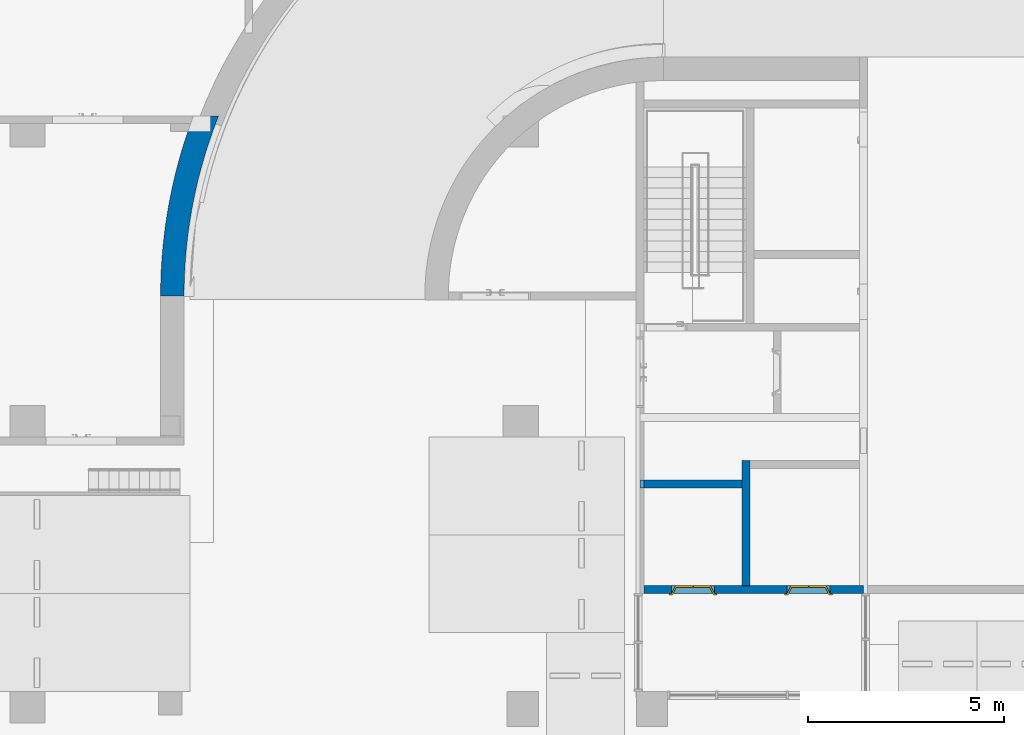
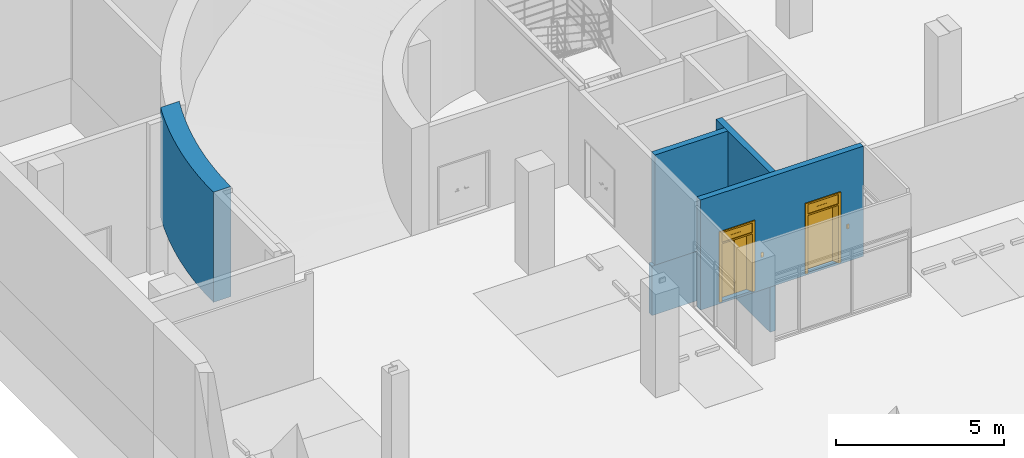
# One storey, part 9 of 30: 6 walls, 2 doors, 2 openings.
"""IFC2X3 building model written with IfcOpenShell, lengths in millimetres."""

from ifc_helpers import new_model, entity, si_unit, converted_unit, derived_unit, direction, frame, frame_2d, origin, place, context, subcontext, project, spatial, polyline, circle_curve, parameter, trimmed, segment, composite_curve, rectangle, outline, extrude, faceted_brep, source, transform, mapped, material, material_list, layer, layer_set, layer_usage, type_object, type_shapes, element, fill, save


model = new_model("IFC2X3")

# Units and contexts
model_context = context("Model", 3, precision=0.01, world=origin(), true_north=direction((6.123031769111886e-17, 1.0)))
body_context = subcontext(model_context, "Body", "Model", "MODEL_VIEW")
ifc_project = project(units=[si_unit("LENGTHUNIT", "METRE", prefix="MILLI"), si_unit("AREAUNIT", "SQUARE_METRE"), si_unit("VOLUMEUNIT", "CUBIC_METRE"), converted_unit("PLANEANGLEUNIT", "DEGREE", entity("IfcRatioMeasure", 0.017453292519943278), si_unit("PLANEANGLEUNIT", "RADIAN"), dimensions=[0, 0, 0, 0, 0, 0, 0]), si_unit("MASSUNIT", "GRAM", prefix="KILO"), derived_unit("MASSDENSITYUNIT", [(si_unit("MASSUNIT", "GRAM", prefix="KILO"), 1), (si_unit("LENGTHUNIT", "METRE"), -3)]), derived_unit("MOMENTOFINERTIAUNIT", [(si_unit("LENGTHUNIT", "METRE"), 4)]), si_unit("TIMEUNIT", "SECOND"), si_unit("FREQUENCYUNIT", "HERTZ"), si_unit("THERMODYNAMICTEMPERATUREUNIT", "DEGREE_CELSIUS"), derived_unit("THERMALTRANSMITTANCEUNIT", [(si_unit("MASSUNIT", "GRAM", prefix="KILO"), 1), (si_unit("THERMODYNAMICTEMPERATUREUNIT", "KELVIN"), -1), (si_unit("TIMEUNIT", "SECOND"), -3)]), derived_unit("VOLUMETRICFLOWRATEUNIT", [(si_unit("LENGTHUNIT", "METRE"), 3), (si_unit("TIMEUNIT", "SECOND"), -1)]), derived_unit("MASSFLOWRATEUNIT", [(si_unit("MASSUNIT", "GRAM", prefix="KILO"), 1), (si_unit("TIMEUNIT", "SECOND"), -1)]), derived_unit("ROTATIONALFREQUENCYUNIT", [(si_unit("TIMEUNIT", "SECOND"), -1)]), si_unit("ELECTRICCURRENTUNIT", "AMPERE"), si_unit("ELECTRICVOLTAGEUNIT", "VOLT"), si_unit("POWERUNIT", "WATT"), si_unit("FORCEUNIT", "NEWTON", prefix="KILO"), si_unit("ILLUMINANCEUNIT", "LUX"), si_unit("LUMINOUSFLUXUNIT", "LUMEN"), si_unit("LUMINOUSINTENSITYUNIT", "CANDELA"), derived_unit("USERDEFINED", [(si_unit("MASSUNIT", "GRAM", prefix="KILO"), -1), (si_unit("LENGTHUNIT", "METRE"), -2), (si_unit("TIMEUNIT", "SECOND"), 3), (si_unit("LUMINOUSFLUXUNIT", "LUMEN"), 1)]), derived_unit("SOUNDPOWERUNIT", [(si_unit("MASSUNIT", "GRAM", prefix="KILO"), 1), (si_unit("LENGTHUNIT", "METRE"), 2), (si_unit("TIMEUNIT", "SECOND"), -3)]), derived_unit("SOUNDPRESSUREUNIT", [(si_unit("MASSUNIT", "GRAM", prefix="KILO"), 1), (si_unit("LENGTHUNIT", "METRE"), -1), (si_unit("TIMEUNIT", "SECOND"), -2)]), derived_unit("LINEARVELOCITYUNIT", [(si_unit("LENGTHUNIT", "METRE"), 1), (si_unit("TIMEUNIT", "SECOND"), -1)]), si_unit("PRESSUREUNIT", "PASCAL"), derived_unit("USERDEFINED", [(si_unit("LENGTHUNIT", "METRE"), -2), (si_unit("MASSUNIT", "GRAM", prefix="KILO"), 1), (si_unit("TIMEUNIT", "SECOND"), -2)]), derived_unit("LINEARFORCEUNIT", [(si_unit("MASSUNIT", "GRAM", prefix="KILO"), 1), (si_unit("LENGTHUNIT", "METRE"), 1), (si_unit("TIMEUNIT", "SECOND"), -2), (si_unit("LENGTHUNIT", "METRE"), -1)]), derived_unit("PLANARFORCEUNIT", [(si_unit("MASSUNIT", "GRAM", prefix="KILO"), 1), (si_unit("LENGTHUNIT", "METRE"), 1), (si_unit("TIMEUNIT", "SECOND"), -2), (si_unit("LENGTHUNIT", "METRE"), -2)])], contexts=[model_context])

# Site, building, storey
site_placement = place(None, frame((-14167.972527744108, -657.2125860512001, 0.0)))
site = spatial("IfcSite", under=ifc_project, at=site_placement, Name="Default", CompositionType="ELEMENT")
building_placement = place(site_placement, origin())
building = spatial("IfcBuilding", under=site, at=building_placement, Name="Sample Building", CompositionType="ELEMENT")
storey_placement = place(building_placement, frame((0.0, 0.0, -10100.0)))
storey = spatial("IfcBuildingStorey", under=building, at=storey_placement, Name="지하2층", CompositionType="ELEMENT", Elevation=-10100.0)

# Walls
ifc_material_1 = material(Name="KBIMS-콘크리트")
ifc_layer_1 = layer(ifc_material_1, 200.0)
ifc_layer_set_1 = layer_set([ifc_layer_1], Name="기본 벽:WA111-철근콘크리트구조 벽 200mm_CW1")
ifc_layer_usage_1 = layer_usage(ifc_layer_set_1, "AXIS2", "NEGATIVE", 100.0)
wall_type_1 = type_object("IfcWallType", Name="기본 벽:WA111-철근콘크리트구조 벽 200mm_CW1", PredefinedType="STANDARD", material=ifc_layer_set_1)
wall_1_placement = place(storey_placement, frame((32867.97271708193, 15757.212586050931, 0.0), z_axis=(0.0, 0.0, 1.0), x_axis=(0.0, 1.0, 0.0)))
element("IfcWallStandardCase", 1, at=wall_1_placement, inside=storey, type_object=wall_type_1, material=ifc_layer_usage_1, Name="기본 벽:WA111-철근콘크리트구조 벽 200mm_CW1", ObjectType="기본 벽:WA111-철근콘크리트구조 벽 200mm_CW1", context=body_context, shape_type="SweptSolid", body=[
    extrude(rectangle(XDim=3199.9997236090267, YDim=200.0000000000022, at=frame_2d((1599.9998618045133, -2.1032064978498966e-12), x_axis=(-1.0, 0.0))), origin(), (0.0, 0.0, 1.0), 4000.0000000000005),
])
ifc_layer_usage_2 = layer_usage(ifc_layer_set_1, "AXIS2", "NEGATIVE", 100.0)
wall_2_placement = place(storey_placement, frame((32767.97271708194, 18357.212309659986, 0.0), z_axis=(0.0, 0.0, 1.0), x_axis=(-1.0, 0.0, 0.0)))
element("IfcWallStandardCase", 2, at=wall_2_placement, inside=storey, type_object=wall_type_1, material=ifc_layer_usage_2, Name="기본 벽:WA111-철근콘크리트구조 벽 200mm_CW1", ObjectType="기본 벽:WA111-철근콘크리트구조 벽 200mm_CW1", context=body_context, shape_type="SweptSolid", body=[
    extrude(rectangle(XDim=2501.8469026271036, YDim=200.0, at=frame_2d((1250.9234513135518, 9.592326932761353e-13), x_axis=(-1.0, 0.0))), origin(), (0.0, 0.0, 1.0), 4000.0000000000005),
])
ifc_layer_usage_3 = layer_usage(ifc_layer_set_1, "AXIS2", "NEGATIVE", 100.0)
wall_3_placement = place(storey_placement, frame((32867.97271708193, 15753.302947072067, -1800.0), z_axis=(0.0, 0.0, 1.0), x_axis=(0.0, 1.0, 0.0)))
element("IfcWallStandardCase", 3, at=wall_3_placement, inside=storey, type_object=wall_type_1, material=ifc_layer_usage_3, Name="기본 벽:WA111-철근콘크리트구조 벽 200mm_CW1", ObjectType="기본 벽:WA111-철근콘크리트구조 벽 200mm_CW1", context=body_context, shape_type="SweptSolid", body=[
    extrude(rectangle(XDim=3203.9093625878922, YDim=200.0000000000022, at=frame_2d((1601.9546812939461, -2.1032064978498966e-12), x_axis=(-1.0, 0.0))), origin(), (0.0, 0.0, 1.0), 1799.999999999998),
])
ifc_layer_usage_4 = layer_usage(ifc_layer_set_1, "AXIS2", "NEGATIVE", 100.0)
wall_4_placement = place(storey_placement, frame((32767.97271708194, 18357.212309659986, -1800.0), z_axis=(0.0, 0.0, 1.0), x_axis=(-1.0, 0.0, 0.0)))
element("IfcWallStandardCase", 4, at=wall_4_placement, inside=storey, type_object=wall_type_1, material=ifc_layer_usage_4, Name="기본 벽:WA111-철근콘크리트구조 벽 200mm_CW1", ObjectType="기본 벽:WA111-철근콘크리트구조 벽 200mm_CW1", context=body_context, shape_type="SweptSolid", body=[
    extrude(rectangle(XDim=2601.846902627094, YDim=200.0, at=frame_2d((1300.923451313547, 1.0871303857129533e-12), x_axis=(-1.0, 0.0))), origin(), (0.0, 0.0, 1.0), 1799.999999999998),
])

# Wall, openings, doors
ifc_layer_usage_5 = layer_usage(ifc_layer_set_1, "AXIS2", "NEGATIVE", 100.0)
wall_5_placement = place(storey_placement, frame((35867.97249113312, 15657.212586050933, 0.0), z_axis=(0.0, 0.0, 1.0), x_axis=(-1.0, 0.0, 0.0)))
wall_5 = element("IfcWallStandardCase", 5, at=wall_5_placement, inside=storey, type_object=wall_type_1, material=ifc_layer_usage_5, Name="기본 벽:WA111-철근콘크리트구조 벽 200mm_CW1", ObjectType="기본 벽:WA111-철근콘크리트구조 벽 200mm_CW1", context=body_context, shape_type="SweptSolid", body=[
    extrude(rectangle(XDim=5601.846676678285, YDim=200.0, at=frame_2d((2800.9233383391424, 5.471179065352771e-13), x_axis=(-1.0, 0.0))), origin(), (0.0, 0.0, 1.0), 4000.0000000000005),
])
opening_1_placement = place(wall_5_placement, frame((4900.92322536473, 100.0, 80.0)))
opening_1 = element("IfcOpeningElement", 6, at=opening_1_placement, cuts=wall_5, Name="EE111-엘리베이터문(문):EE111-엘리베이터문(20인승)_1100x2550:1", ObjectType="Opening", context=body_context, shape_type="SweptSolid", body=[
    extrude(rectangle(XDim=2549.999999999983, YDim=1099.9999999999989, at=frame_2d((1274.9999999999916, 550.0000000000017), x_axis=(1.0, 0.0))), frame((0.0, 0.0, 0.0), z_axis=(0.0, -1.0, 0.0), x_axis=(0.0, 0.0, 1.0)), (0.0, 0.0, 1.0), 200.0),
])
opening_2_placement = place(wall_5_placement, frame((1949.99990977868, 100.0, 80.0)))
opening_2 = element("IfcOpeningElement", 7, at=opening_2_placement, cuts=wall_5, Name="EE111-엘리베이터문(문):EE111-엘리베이터문(20인승)_1100x2550:1", ObjectType="Opening", context=body_context, shape_type="SweptSolid", body=[
    extrude(rectangle(XDim=2549.999999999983, YDim=1099.9999999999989, at=frame_2d((1274.9999999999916, 550.0000000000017), x_axis=(1.0, 0.0))), frame((0.0, 0.0, 0.0), z_axis=(0.0, -1.0, 0.0), x_axis=(0.0, 0.0, 1.0)), (0.0, 0.0, 1.0), 200.0),
])
ifc_material_2 = material(Name="<Unnamed>")
ifc_material_list = material_list([ifc_material_2, ifc_material_2, ifc_material_2, ifc_material_2])
door_style = type_object("IfcDoorStyle", Name="EE111-엘리베이터문(문):EE111-엘리베이터문(20인승)_1100x2550", ConstructionType="NOTDEFINED", OperationType="DOUBLE_DOOR_SLIDING", ParameterTakesPrecedence=False, Sizeable=False, material=ifc_material_list)
shared_shape = source(origin(), body_context, "Body", "Brep", [
    faceted_brep([(-296.2736811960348, 220.43384628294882, 1175.0), (-313.5941892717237, 220.4338462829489, 1145.0), (-330.9146973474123, 220.43384628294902, 1175.0), (-296.2736811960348, 215.04269782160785, 1175.0), (-330.9146973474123, 215.0426978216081, 1175.0), (-313.5941892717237, 215.04269782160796, 1145.0)], [[[0, 1, 2]], [[3, 4, 5]], [[1, 0, 3, 5]], [[2, 1, 5, 4]], [[0, 2, 4, 3]]]),
    faceted_brep([(-330.9146973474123, 220.43384628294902, 1225.0), (-296.2736811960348, 220.43384628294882, 1225.0), (-296.2736811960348, 215.04269782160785, 1225.0), (-330.9146973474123, 215.04269782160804, 1225.0), (-313.5941892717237, 220.4338462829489, 1255.0), (-313.5941892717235, 215.04269782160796, 1255.0)], [[[0, 1, 2, 3]], [[4, 0, 3, 5]], [[1, 4, 5, 2]], [[2, 5, 3]], [[1, 0, 4]]]),
    faceted_brep([(-351.5567877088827, 215.0426978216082, 1277.0326998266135), (-275.63159083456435, 215.04269782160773, 1277.0326998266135), (-275.63159083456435, 215.04269782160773, 1122.967300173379), (-351.5567877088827, 215.0426978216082, 1122.967300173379), (-351.55678770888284, 200.0, 1277.0326998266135), (-351.55678770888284, 200.0, 1122.967300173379), (-275.6315908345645, 200.0, 1122.967300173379), (-275.6315908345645, 200.0, 1277.0326998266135)], [[[0, 1, 2, 3]], [[4, 5, 6, 7]], [[1, 0, 4, 7]], [[2, 1, 7, 6]], [[3, 2, 6, 5]], [[0, 3, 5, 4]]]),
    faceted_brep([(-60.0, 200.0, 2550.0), (-60.0, 240.0, 2550.0), (-60.0, 240.0, 0.0), (-60.0, 200.0, 0.0), (703.014298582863, 240.0, 2550.0), (703.014298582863, 240.0, 2500.0), (27.911234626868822, 240.0, 2500.0), (27.911234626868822, 240.0, 2150.0), (703.014298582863, 240.0, 2150.0), (703.014298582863, 240.0, 2100.0), (27.911234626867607, 240.0, 2100.0), (27.911234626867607, 240.0, 0.0), (978.5926496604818, 40.0, 0.0), (1078.5926496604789, 240.0, 0.0), (1160.0, 240.0, 0.0), (1160.0, 200.0, 0.0), (1100.0, 200.0, 0.0), (1000.0, 0.0, 0.0), (555.0, 0.0, 0.0), (555.0, 40.0, 0.0), (0.0, 200.0, 2550.0), (0.0, 200.0, 0.0), (100.0, 0.0, 2550.0), (100.0, 0.0, 0.0), (1000.0, 0.0, 2550.0), (545.0, 0.0, 0.0), (545.0, 0.0, 2100.0), (555.0, 0.0, 2100.0), (545.0, 40.0, 0.0), (545.0, 40.0, 2100.0), (555.0, 40.0, 2100.0), (1100.0, 200.0, 2550.0), (1160.0, 200.0, 2550.0), (1160.0, 240.0, 2550.0), (1078.5926496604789, 240.0, 2100.0), (1078.5926496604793, 240.0, 2150.0), (1078.5926496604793, 240.0, 2500.0), (978.5926496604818, 40.0, 2100.0), (127.91123462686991, 40.0, 0.0), (127.91123462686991, 40.0, 2100.0), (1078.5926496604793, 214.08728771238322, 2150.0), (1078.5926496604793, 214.08728771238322, 2500.0), (27.911234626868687, 214.0872877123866, 2500.0), (27.911234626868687, 214.0872877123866, 2150.0), (550.0, 214.08728771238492, 2370.0), (410.8272722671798, 214.08728771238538, 2370.0), (410.8272722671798, 214.08728771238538, 2300.0), (550.0, 214.08728771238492, 2300.0), (789.172727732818, 214.08728771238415, 2300.0), (789.172727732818, 214.08728771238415, 2370.0), (550.0, 208.4787281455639, 2370.0), (410.8272722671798, 208.47872814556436, 2370.0), (410.8272722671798, 208.47872814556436, 2300.0), (789.172727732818, 208.47872814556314, 2300.0), (789.172727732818, 208.47872814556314, 2370.0), (550.0, 208.4787281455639, 2300.0)], [[[0, 1, 2, 3]], [[2, 1, 4, 5, 6, 7, 8, 9, 10, 11]], [[12, 13, 14, 15, 16, 17, 18, 19]], [[20, 0, 3, 21]], [[22, 20, 21, 23]], [[24, 22, 23, 25, 26, 27, 18, 17]], [[25, 28, 29, 26]], [[19, 18, 27, 30]], [[31, 24, 17, 16]], [[32, 31, 16, 15]], [[33, 32, 15, 14]], [[4, 33, 14, 13, 34, 9, 8, 35, 36, 5]], [[13, 12, 37, 34]], [[38, 11, 10, 39]], [[38, 39, 29, 28]], [[37, 12, 19, 30]], [[1, 0, 20, 22, 24, 31, 32, 33, 4]], [[40, 41, 36, 35]], [[41, 42, 6, 5, 36]], [[42, 43, 7, 6]], [[43, 42, 41, 40], [44, 45, 46, 47, 48, 49]], [[50, 51, 45, 44]], [[51, 52, 46, 45]], [[53, 54, 49, 48]], [[54, 50, 44, 49]], [[50, 54, 53, 55, 52, 51]], [[10, 9, 34, 37, 30, 27, 26, 29, 39]], [[43, 40, 35, 8, 7]], [[52, 55, 47, 46]], [[55, 53, 48, 47]], [[21, 3, 2, 11, 38, 28, 25, 23]]]),
])
type_shapes(door_style, [shared_shape])
door_1_placement = place(opening_1_placement, frame((-1100.0, -200.0, 0.0)))
door_1 = element("IfcDoor", 8, at=door_1_placement, inside=storey, type_object=door_style, material=ifc_material_2, Name="EE111-엘리베이터문(문):EE111-엘리베이터문(20인승)_1100x2550", ObjectType="EE111-엘리베이터문(문):EE111-엘리베이터문(20인승)_1100x2550", OverallHeight=2549.999999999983, OverallWidth=1100.0000000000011, context=body_context, shape_type="MappedRepresentation", body=[
    mapped(shared_shape, transform((0.0, 0.0, 0.0), scale=1.0)),
])
fill(opening_1, door_1)
door_2_placement = place(opening_2_placement, frame((-1100.0, -200.0, 0.0)))
door_2 = element("IfcDoor", 9, at=door_2_placement, inside=storey, type_object=door_style, material=ifc_material_2, Name="EE111-엘리베이터문(문):EE111-엘리베이터문(20인승)_1100x2550", ObjectType="EE111-엘리베이터문(문):EE111-엘리베이터문(20인승)_1100x2550", OverallHeight=2549.999999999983, OverallWidth=1100.0000000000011, context=body_context, shape_type="MappedRepresentation", body=[
    mapped(shared_shape, transform((0.0, 0.0, 0.0), scale=1.0)),
])
fill(opening_2, door_2)

# Wall
ifc_layer_2 = layer(ifc_material_1, 600.0)
ifc_layer_set_2 = layer_set([ifc_layer_2], Name="기본 벽:WA111-철근콘크리트구조 벽 300mm_RaW1")
ifc_layer_usage_6 = layer_usage(ifc_layer_set_2, "AXIS2", "NEGATIVE", 300.0)
wall_type_2 = type_object("IfcWallType", Name="기본 벽:WA111-철근콘크리트구조 벽 300mm_RaW1", PredefinedType="STANDARD", material=ifc_layer_set_2)
wall_6_placement = place(storey_placement, frame((19124.16602174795, 27868.50263057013, 0.0)))
element("IfcWallStandardCase", 10, at=wall_6_placement, inside=storey, type_object=wall_type_2, material=ifc_layer_usage_6, Name="기본 벽:WA111-철근콘크리트구조 벽 300mm_RaW1", ObjectType="기본 벽:WA111-철근콘크리트구조 벽 300mm_RaW1", context=body_context, shape_type="SweptSolid", body=[
    extrude(outline(composite_curve([segment(trimmed(circle_curve(frame_2d((11793.801062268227, -4711.290322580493), x_axis=(1.0, 0.0)), 12399.999999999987), [parameter(159.23637249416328)], [parameter(180.00000000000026)], True, "PARAMETER"), False, "CONTINUOUS"), segment(trimmed(circle_curve(frame_2d((11793.801062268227, -4711.290322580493), x_axis=(1.0, 0.0)), 12399.999999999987), [parameter(158.2246871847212)], [parameter(159.23637249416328)], True, "PARAMETER"), False, "CONTINUOUS"), segment(polyline([(278.59372588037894, -111.29032258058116), (-193.84532478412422, -111.29032258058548)]), True, "CONTINUOUS"), segment(polyline([(-193.84532478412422, -111.29032258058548), (-365.1462605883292, -111.29032258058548)]), True, "CONTINUOUS"), segment(trimmed(circle_curve(frame_2d((11793.801062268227, -4711.290322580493), x_axis=(1.0, 0.0)), 12999.99999999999), [parameter(159.27725561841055)], [parameter(160.21682962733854)], True, "PARAMETER"), True, "CONTINUOUS"), segment(trimmed(circle_curve(frame_2d((11793.801062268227, -4711.290322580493), x_axis=(1.0, 0.0)), 12999.99999999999), [parameter(160.21682962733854)], [parameter(161.15089196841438)], True, "PARAMETER"), True, "CONTINUOUS"), segment(trimmed(circle_curve(frame_2d((11793.801062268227, -4711.290322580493), x_axis=(1.0, 0.0)), 12999.99999999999), [parameter(161.15089196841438)], [parameter(180.00000000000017)], True, "PARAMETER"), True, "CONTINUOUS"), segment(polyline([(-1206.1989377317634, -4711.290322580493), (-656.2105485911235, -4711.290322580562)]), True, "CONTINUOUS"), segment(polyline([(-656.2105485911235, -4711.290322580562), (-606.1989377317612, -4711.29032258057)]), True, "CONTINUOUS")], self_intersect=False)), origin(), (0.0, 0.0, 1.0), 4000.0000000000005),
])

save(model, "model.ifc")
